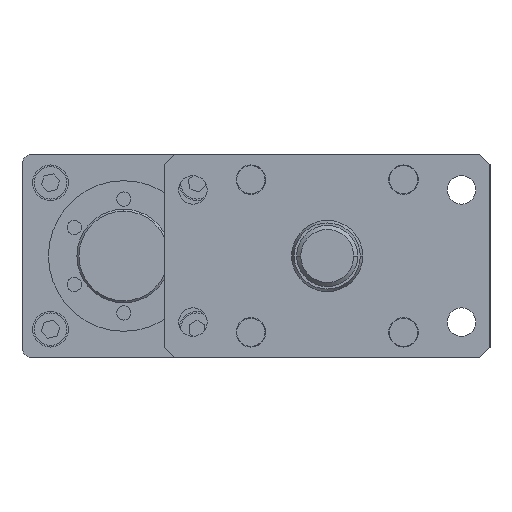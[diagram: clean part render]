
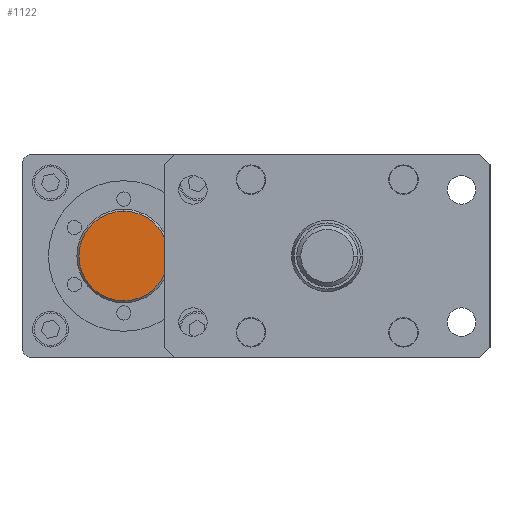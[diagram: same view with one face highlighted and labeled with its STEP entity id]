
A CAD part, front view. The second image highlights one B-rep face of the part: STEP entity #1122.
In plain terms, the highlighted planar face has unit normal (0, -1, 0).
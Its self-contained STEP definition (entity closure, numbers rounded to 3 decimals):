
#585 = DIRECTION ( 'NONE',  ( 0., 0., -1. ) ) ;
#1122 = ADVANCED_FACE ( 'NONE', ( #15613 ), #8898, .T. ) ;
#1217 = DIRECTION ( 'NONE',  ( 0., 0., -1. ) ) ;
#2899 = DIRECTION ( 'NONE',  ( 0., -1., 0. ) ) ;
#4621 = EDGE_CURVE ( 'NONE', #9874, #10099, #15911, .T. ) ;
#7165 = CARTESIAN_POINT ( 'NONE',  ( -100., -94., -22. ) ) ;
#8898 = PLANE ( 'NONE',  #17018 ) ;
#9874 = VERTEX_POINT ( 'NONE', #7165 ) ;
#9877 = ORIENTED_EDGE ( 'NONE', *, *, #4621, .T. ) ;
#10099 = VERTEX_POINT ( 'NONE', #11772 ) ;
#10547 = DIRECTION ( 'NONE',  ( 0., -1., 0. ) ) ;
#11199 = DIRECTION ( 'NONE',  ( 0., -1., 0. ) ) ;
#11655 = EDGE_LOOP ( 'NONE', ( #12189, #9877 ) ) ;
#11772 = CARTESIAN_POINT ( 'NONE',  ( -100., -94., 22. ) ) ;
#12073 = AXIS2_PLACEMENT_3D ( 'NONE', #21247, #11199, #1217 ) ;
#12189 = ORIENTED_EDGE ( 'NONE', *, *, #19167, .T. ) ;
#12674 = CIRCLE ( 'NONE', #12073, 22. ) ;
#12870 = CARTESIAN_POINT ( 'NONE',  ( -100., -94., 0. ) ) ;
#14552 = DIRECTION ( 'NONE',  ( 0., 0., -1. ) ) ;
#15540 = CARTESIAN_POINT ( 'NONE',  ( -100., -94., 0. ) ) ;
#15613 = FACE_OUTER_BOUND ( 'NONE', #11655, .T. ) ;
#15911 = CIRCLE ( 'NONE', #19310, 22. ) ;
#17018 = AXIS2_PLACEMENT_3D ( 'NONE', #15540, #10547, #585 ) ;
#19167 = EDGE_CURVE ( 'NONE', #10099, #9874, #12674, .T. ) ;
#19310 = AXIS2_PLACEMENT_3D ( 'NONE', #12870, #2899, #14552 ) ;
#21247 = CARTESIAN_POINT ( 'NONE',  ( -100., -94., 0. ) ) ;
